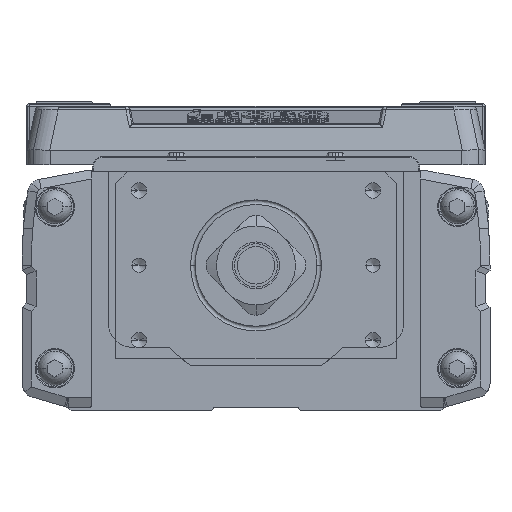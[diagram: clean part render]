
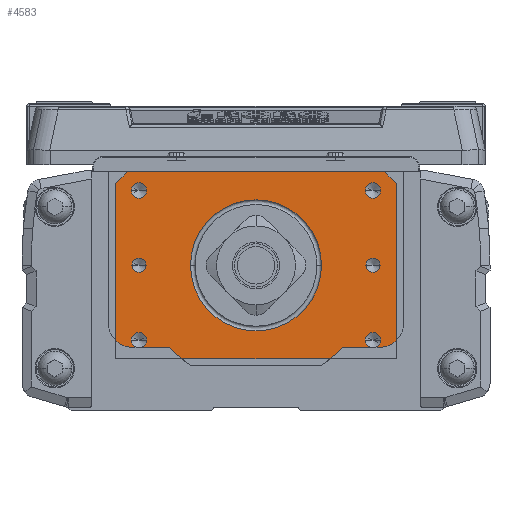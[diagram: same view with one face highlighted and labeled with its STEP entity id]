
A CAD part, left-side view. The second image highlights one B-rep face of the part: STEP entity #4583.
In plain terms, the highlighted planar face has unit normal (-1, 0, 0).
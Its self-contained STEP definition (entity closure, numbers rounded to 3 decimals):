
#4583=ADVANCED_FACE('',(#9862,#9863,#9864,#9865,#9866,#9867,#9868,#9869),#9870,.T.);
#9862=FACE_BOUND('',#16289,.T.);
#9863=FACE_BOUND('',#16290,.T.);
#9864=FACE_BOUND('',#16291,.T.);
#9865=FACE_BOUND('',#16292,.T.);
#9866=FACE_BOUND('',#16293,.T.);
#9867=FACE_BOUND('',#16294,.T.);
#9868=FACE_BOUND('',#16295,.T.);
#9869=FACE_OUTER_BOUND('',#16296,.T.);
#9870=PLANE('',#16297);
#16289=EDGE_LOOP('',(#29434,#29435));
#16290=EDGE_LOOP('',(#29436,#29437));
#16291=EDGE_LOOP('',(#29438,#29439));
#16292=EDGE_LOOP('',(#29440,#29441));
#16293=EDGE_LOOP('',(#29442,#29443));
#16294=EDGE_LOOP('',(#29444,#29445));
#16295=EDGE_LOOP('',(#29446,#29447,#29448));
#16296=EDGE_LOOP('',(#29449,#29450,#29451,#29452,#29453,#29454));
#16297=AXIS2_PLACEMENT_3D('',#29455,#29456,#29457);
#29434=ORIENTED_EDGE('',*,*,#37211,.T.);
#29435=ORIENTED_EDGE('',*,*,#41574,.T.);
#29436=ORIENTED_EDGE('',*,*,#36951,.T.);
#29437=ORIENTED_EDGE('',*,*,#36900,.T.);
#29438=ORIENTED_EDGE('',*,*,#37768,.T.);
#29439=ORIENTED_EDGE('',*,*,#36432,.T.);
#29440=ORIENTED_EDGE('',*,*,#39668,.T.);
#29441=ORIENTED_EDGE('',*,*,#37372,.T.);
#29442=ORIENTED_EDGE('',*,*,#41575,.T.);
#29443=ORIENTED_EDGE('',*,*,#41576,.T.);
#29444=ORIENTED_EDGE('',*,*,#41577,.T.);
#29445=ORIENTED_EDGE('',*,*,#41578,.T.);
#29446=ORIENTED_EDGE('',*,*,#40439,.T.);
#29447=ORIENTED_EDGE('',*,*,#37454,.T.);
#29448=ORIENTED_EDGE('',*,*,#40440,.T.);
#29449=ORIENTED_EDGE('',*,*,#40083,.F.);
#29450=ORIENTED_EDGE('',*,*,#41579,.F.);
#29451=ORIENTED_EDGE('',*,*,#40178,.T.);
#29452=ORIENTED_EDGE('',*,*,#41580,.T.);
#29453=ORIENTED_EDGE('',*,*,#38731,.F.);
#29454=ORIENTED_EDGE('',*,*,#37976,.T.);
#29455=CARTESIAN_POINT('',(-580.,0.,-20.));
#29456=DIRECTION('',(-1.0,0.,0.));
#29457=DIRECTION('',(0.,-1.0,0.));
#36432=EDGE_CURVE('',#43404,#43401,#43405,.T.);
#36900=EDGE_CURVE('',#44244,#44241,#44245,.T.);
#36951=EDGE_CURVE('',#44241,#44244,#44328,.T.);
#37211=EDGE_CURVE('',#44769,#44774,#44776,.T.);
#37372=EDGE_CURVE('',#45049,#45046,#45050,.T.);
#37454=EDGE_CURVE('',#45186,#45190,#45192,.T.);
#37768=EDGE_CURVE('',#43401,#43404,#45715,.T.);
#37976=EDGE_CURVE('',#46066,#46063,#46067,.T.);
#38731=EDGE_CURVE('',#46066,#47328,#47329,.T.);
#39668=EDGE_CURVE('',#45046,#45049,#48786,.T.);
#40083=EDGE_CURVE('',#49383,#46063,#49385,.T.);
#40178=EDGE_CURVE('',#49517,#49514,#49518,.T.);
#40439=EDGE_CURVE('',#49892,#45186,#49893,.T.);
#40440=EDGE_CURVE('',#45190,#49892,#49894,.T.);
#41574=EDGE_CURVE('',#44774,#44769,#51403,.T.);
#41575=EDGE_CURVE('',#51404,#51405,#51406,.T.);
#41576=EDGE_CURVE('',#51405,#51404,#51407,.T.);
#41577=EDGE_CURVE('',#51408,#51409,#51410,.T.);
#41578=EDGE_CURVE('',#51409,#51408,#51411,.T.);
#41579=EDGE_CURVE('',#49517,#49383,#51412,.T.);
#41580=EDGE_CURVE('',#49514,#47328,#51413,.T.);
#43401=VERTEX_POINT('',#53581);
#43404=VERTEX_POINT('',#53585);
#43405=CIRCLE('',#53586,1.65);
#44241=VERTEX_POINT('',#54784);
#44244=VERTEX_POINT('',#54788);
#44245=CIRCLE('',#54789,1.5);
#44328=CIRCLE('',#54926,1.5);
#44769=VERTEX_POINT('',#55536);
#44774=VERTEX_POINT('',#55542);
#44776=CIRCLE('',#55545,1.5);
#45046=VERTEX_POINT('',#55893);
#45049=VERTEX_POINT('',#55897);
#45050=CIRCLE('',#55898,1.65);
#45186=VERTEX_POINT('',#56083);
#45190=VERTEX_POINT('',#56087);
#45192=CIRCLE('',#56089,14.0);
#45715=CIRCLE('',#56833,1.65);
#46063=VERTEX_POINT('',#57322);
#46066=VERTEX_POINT('',#57326);
#46067=LINE('',#57327,#57328);
#47328=VERTEX_POINT('',#59118);
#47329=LINE('',#59119,#59120);
#48786=CIRCLE('',#61205,1.65);
#49383=VERTEX_POINT('',#62043);
#49385=LINE('',#62046,#62047);
#49514=VERTEX_POINT('',#62287);
#49517=VERTEX_POINT('',#62291);
#49518=LINE('',#62292,#62293);
#49892=VERTEX_POINT('',#62799);
#49893=CIRCLE('',#62800,14.0);
#49894=CIRCLE('',#62801,14.0);
#51403=CIRCLE('',#64935,1.5);
#51404=VERTEX_POINT('',#64936);
#51405=VERTEX_POINT('',#64937);
#51406=CIRCLE('',#64938,1.65);
#51407=CIRCLE('',#64939,1.65);
#51408=VERTEX_POINT('',#64940);
#51409=VERTEX_POINT('',#64941);
#51410=CIRCLE('',#64942,1.65);
#51411=CIRCLE('',#64943,1.65);
#51412=LINE('',#64944,#64945);
#51413=LINE('',#64946,#64947);
#53581=CARTESIAN_POINT('',(-580.,-26.65,-16.));
#53585=CARTESIAN_POINT('',(-580.,-23.35,-16.));
#53586=AXIS2_PLACEMENT_3D('',#67586,#67587,#67588);
#54784=CARTESIAN_POINT('',(-580.,26.5,0.));
#54788=CARTESIAN_POINT('',(-580.,23.5,0.));
#54789=AXIS2_PLACEMENT_3D('',#68243,#68244,#68245);
#54926=AXIS2_PLACEMENT_3D('',#68301,#68302,#68303);
#55536=CARTESIAN_POINT('',(-580.,-26.5,0.));
#55542=CARTESIAN_POINT('',(-580.,-23.5,0.));
#55545=AXIS2_PLACEMENT_3D('',#68667,#68668,#68669);
#55893=CARTESIAN_POINT('',(-580.,26.65,-16.));
#55897=CARTESIAN_POINT('',(-580.,23.35,-16.));
#55898=AXIS2_PLACEMENT_3D('',#68890,#68891,#68892);
#56083=CARTESIAN_POINT('',(-580.,14.,0.));
#56087=CARTESIAN_POINT('',(-580.,-14.,0.));
#56089=AXIS2_PLACEMENT_3D('',#68999,#69000,#69001);
#56833=AXIS2_PLACEMENT_3D('',#69424,#69425,#69426);
#57322=CARTESIAN_POINT('',(-580.,27.5,20.));
#57326=CARTESIAN_POINT('',(-580.,-27.5,20.));
#57327=CARTESIAN_POINT('',(-580.,30.,20.));
#57328=VECTOR('',#69688,10.0);
#59118=CARTESIAN_POINT('',(-580.,-30.,17.5));
#59119=CARTESIAN_POINT('',(-580.,-31.25,16.25));
#59120=VECTOR('',#70742,10.);
#61205=AXIS2_PLACEMENT_3D('',#72091,#72092,#72093);
#62043=CARTESIAN_POINT('',(-580.,30.,17.5));
#62046=CARTESIAN_POINT('',(-580.,31.25,16.25));
#62047=VECTOR('',#72579,10.);
#62287=CARTESIAN_POINT('',(-580.,-30.,-20.));
#62291=CARTESIAN_POINT('',(-580.,30.,-20.));
#62292=CARTESIAN_POINT('',(-580.,30.,-20.));
#62293=VECTOR('',#72690,10.0);
#62799=CARTESIAN_POINT('',(-580.,0.,-14.));
#62800=AXIS2_PLACEMENT_3D('',#73021,#73022,#73023);
#62801=AXIS2_PLACEMENT_3D('',#73024,#73025,#73026);
#64935=AXIS2_PLACEMENT_3D('',#74404,#74405,#74406);
#64936=CARTESIAN_POINT('',(-580.,26.65,16.));
#64937=CARTESIAN_POINT('',(-580.,23.35,16.));
#64938=AXIS2_PLACEMENT_3D('',#74407,#74408,#74409);
#64939=AXIS2_PLACEMENT_3D('',#74410,#74411,#74412);
#64940=CARTESIAN_POINT('',(-580.,-26.65,16.));
#64941=CARTESIAN_POINT('',(-580.,-23.35,16.));
#64942=AXIS2_PLACEMENT_3D('',#74413,#74414,#74415);
#64943=AXIS2_PLACEMENT_3D('',#74416,#74417,#74418);
#64944=CARTESIAN_POINT('',(-580.,30.,-20.));
#64945=VECTOR('',#74419,10.0);
#64946=CARTESIAN_POINT('',(-580.,-30.,-20.));
#64947=VECTOR('',#74420,10.0);
#67586=CARTESIAN_POINT('',(-580.,-25.,-16.));
#67587=DIRECTION('',(1.0,0.,0.));
#67588=DIRECTION('',(0.,-1.0,0.));
#68243=CARTESIAN_POINT('',(-580.,25.,0.));
#68244=DIRECTION('',(1.0,0.,0.));
#68245=DIRECTION('',(0.,1.0,0.));
#68301=CARTESIAN_POINT('',(-580.,25.,0.));
#68302=DIRECTION('',(1.0,0.,0.));
#68303=DIRECTION('',(0.,1.0,0.));
#68667=CARTESIAN_POINT('',(-580.,-25.,0.));
#68668=DIRECTION('',(1.0,0.,0.));
#68669=DIRECTION('',(0.,-1.0,0.));
#68890=CARTESIAN_POINT('',(-580.,25.,-16.));
#68891=DIRECTION('',(1.0,0.,0.));
#68892=DIRECTION('',(0.,1.0,0.));
#68999=CARTESIAN_POINT('',(-580.,0.,0.));
#69000=DIRECTION('',(1.0,0.,0.));
#69001=DIRECTION('',(0.,0.,1.0));
#69424=CARTESIAN_POINT('',(-580.,-25.,-16.));
#69425=DIRECTION('',(1.0,0.,0.));
#69426=DIRECTION('',(0.,-1.0,0.));
#69688=DIRECTION('',(0.,1.0,0.));
#70742=DIRECTION('',(0.0,-0.707,-0.707));
#72091=CARTESIAN_POINT('',(-580.,25.,-16.));
#72092=DIRECTION('',(1.0,0.,0.));
#72093=DIRECTION('',(0.,1.0,0.));
#72579=DIRECTION('',(0.,-0.707,0.707));
#72690=DIRECTION('',(0.,-1.0,0.));
#73021=CARTESIAN_POINT('',(-580.,0.,0.));
#73022=DIRECTION('',(1.0,0.,0.));
#73023=DIRECTION('',(0.,0.,1.0));
#73024=CARTESIAN_POINT('',(-580.,0.,0.));
#73025=DIRECTION('',(1.0,0.,0.));
#73026=DIRECTION('',(0.,0.,1.0));
#74404=CARTESIAN_POINT('',(-580.,-25.,0.));
#74405=DIRECTION('',(1.0,0.,0.));
#74406=DIRECTION('',(0.,-1.0,0.));
#74407=CARTESIAN_POINT('',(-580.,25.,16.));
#74408=DIRECTION('',(1.0,0.,0.));
#74409=DIRECTION('',(0.,1.0,0.));
#74410=CARTESIAN_POINT('',(-580.,25.,16.));
#74411=DIRECTION('',(1.0,0.,0.));
#74412=DIRECTION('',(0.,1.0,0.));
#74413=CARTESIAN_POINT('',(-580.,-25.,16.));
#74414=DIRECTION('',(1.0,0.,0.));
#74415=DIRECTION('',(0.,-1.0,0.));
#74416=CARTESIAN_POINT('',(-580.,-25.,16.));
#74417=DIRECTION('',(1.0,0.,0.));
#74418=DIRECTION('',(0.,-1.0,0.));
#74419=DIRECTION('',(0.,0.,1.0));
#74420=DIRECTION('',(0.,0.,1.0));
